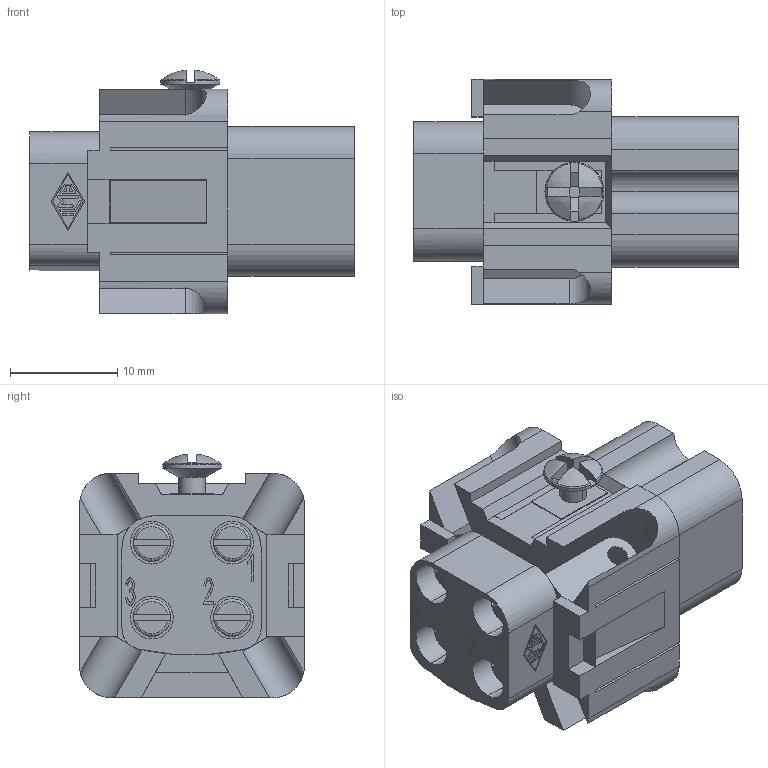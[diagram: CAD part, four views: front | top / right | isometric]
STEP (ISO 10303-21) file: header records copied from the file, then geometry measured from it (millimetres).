
FILE_DESCRIPTION (( 'STEP AP203' ), '1' );
FILE_NAME ('KAI3HO.STEP', '2013-04-25T11:55:16', ( '' ), ( '' ), 'SwSTEP 2.0', 'SolidWorks 2010', '' );
FILE_SCHEMA (( 'CONFIG_CONTROL_DESIGN' ));
Length unit declared in the file: millimetre
Products named in the file (1): KAI3HO
Bounding box: 30.31 x 21 x 22.76 mm (x, y, z)
Volume: 6761.7 mm3; surface area: 4822.9 mm2
Topology: 8 solids, 8 shells, 442 faces, 1168 edges, 766 vertices
Faces by surface type: plane 268, cylinder 101, bspline 71, cone 2
Entity records: 14845 total; most frequent: CARTESIAN_POINT 4171, ORIENTED_EDGE 2336, DIRECTION 1973, EDGE_CURVE 1168, VERTEX_POINT 766, LINE 765, VECTOR 765, AXIS2_PLACEMENT_3D 604
